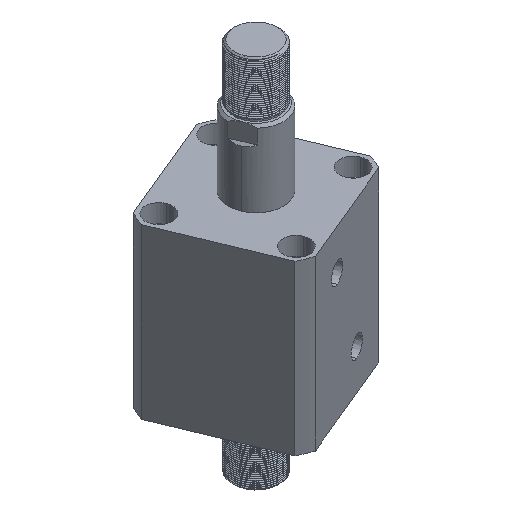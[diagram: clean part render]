
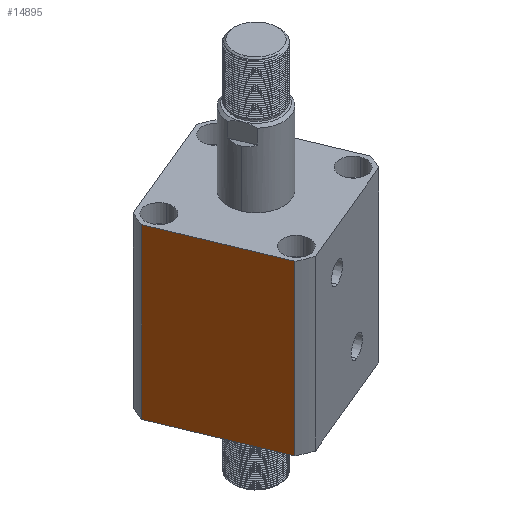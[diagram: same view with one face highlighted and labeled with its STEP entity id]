
A CAD part, isometric view. The second image highlights one B-rep face of the part: STEP entity #14895.
In plain terms, the highlighted planar face has unit normal (-0.924, -0.383, 0) as drawn and (1, 0, 0) by its records, which use the part's own axes.
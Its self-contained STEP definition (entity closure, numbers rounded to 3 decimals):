
#834 = CARTESIAN_POINT ( 'NONE',  ( 57., 57., 0. ) ) ;
#4061 = EDGE_CURVE ( 'NONE', #25325, #21617, #16261, .T. ) ;
#4155 = CARTESIAN_POINT ( 'NONE',  ( 57., -47.971, 0. ) ) ;
#4400 = VECTOR ( 'NONE', #25002, 1000. ) ;
#5816 = ORIENTED_EDGE ( 'NONE', *, *, #8888, .T. ) ;
#6744 = CARTESIAN_POINT ( 'NONE',  ( 57., 47.971, -162. ) ) ;
#8784 = PLANE ( 'NONE',  #19815 ) ;
#8888 = EDGE_CURVE ( 'NONE', #20550, #20362, #20479, .T. ) ;
#9926 = VECTOR ( 'NONE', #20864, 1000. ) ;
#10893 = VECTOR ( 'NONE', #15996, 1000. ) ;
#11757 = EDGE_LOOP ( 'NONE', ( #20151, #5816, #13023, #18739 ) ) ;
#11914 = CARTESIAN_POINT ( 'NONE',  ( 57., 47.971, 0. ) ) ;
#12841 = DIRECTION ( 'NONE',  ( 0., -1., 0. ) ) ;
#13023 = ORIENTED_EDGE ( 'NONE', *, *, #17347, .F. ) ;
#14669 = VECTOR ( 'NONE', #22919, 1000. ) ;
#14895 = ADVANCED_FACE ( 'NONE', ( #24230 ), #8784, .F. ) ;
#15929 = LINE ( 'NONE', #19023, #9926 ) ;
#15996 = DIRECTION ( 'NONE',  ( 0., 1., 0. ) ) ;
#16261 = LINE ( 'NONE', #18201, #10893 ) ;
#17347 = EDGE_CURVE ( 'NONE', #21617, #20362, #20040, .T. ) ;
#17749 = CARTESIAN_POINT ( 'NONE',  ( 57., 47.971, 138. ) ) ;
#18201 = CARTESIAN_POINT ( 'NONE',  ( 57., 57., 138. ) ) ;
#18306 = CARTESIAN_POINT ( 'NONE',  ( 57., -47.971, 138. ) ) ;
#18739 = ORIENTED_EDGE ( 'NONE', *, *, #4061, .F. ) ;
#19023 = CARTESIAN_POINT ( 'NONE',  ( 57., -47.971, -162. ) ) ;
#19815 = AXIS2_PLACEMENT_3D ( 'NONE', #20853, #24952, #12841 ) ;
#20040 = LINE ( 'NONE', #6744, #14669 ) ;
#20151 = ORIENTED_EDGE ( 'NONE', *, *, #22591, .F. ) ;
#20362 = VERTEX_POINT ( 'NONE', #11914 ) ;
#20479 = LINE ( 'NONE', #834, #4400 ) ;
#20550 = VERTEX_POINT ( 'NONE', #4155 ) ;
#20853 = CARTESIAN_POINT ( 'NONE',  ( 57., 57., 138. ) ) ;
#20864 = DIRECTION ( 'NONE',  ( 0., 0., 1. ) ) ;
#21617 = VERTEX_POINT ( 'NONE', #17749 ) ;
#22591 = EDGE_CURVE ( 'NONE', #20550, #25325, #15929, .T. ) ;
#22919 = DIRECTION ( 'NONE',  ( 0., 0., -1. ) ) ;
#24230 = FACE_OUTER_BOUND ( 'NONE', #11757, .T. ) ;
#24952 = DIRECTION ( 'NONE',  ( -1., 0., 0. ) ) ;
#25002 = DIRECTION ( 'NONE',  ( 0., 1., 0. ) ) ;
#25325 = VERTEX_POINT ( 'NONE', #18306 ) ;
